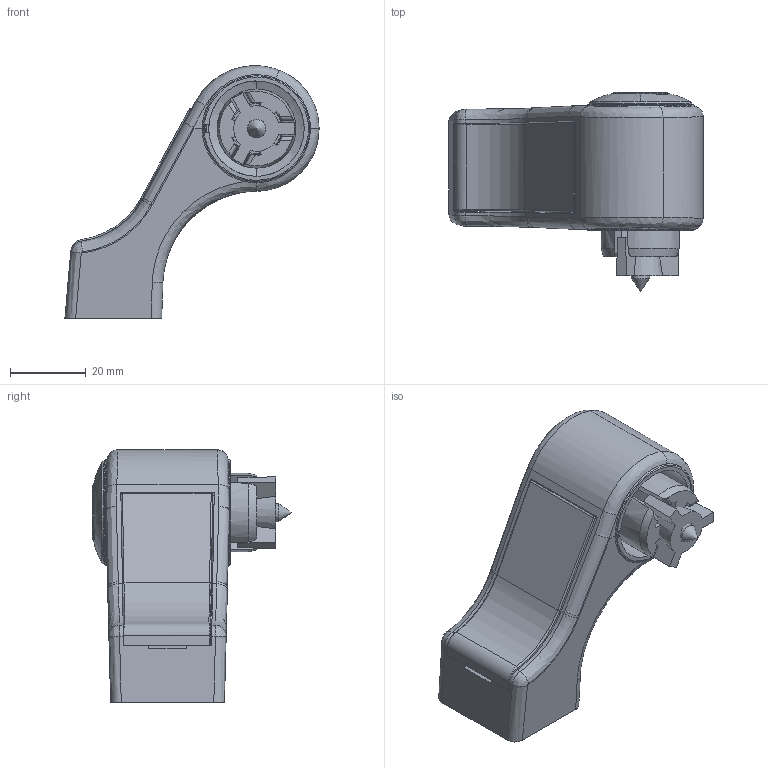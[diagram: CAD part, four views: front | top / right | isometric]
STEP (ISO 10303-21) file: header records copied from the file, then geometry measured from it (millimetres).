
FILE_DESCRIPTION (( 'STEP AP214' ), '1' );
FILE_NAME ('F31111_2.step', '2024-12-03T16:17:13', ( '' ), ( '' ), 'SwSTEP 2.0', 'SolidWorks 2023', '' );
FILE_SCHEMA (( 'AUTOMOTIVE_DESIGN' ));
Length unit declared in the file: millimetre
Products named in the file (1): F31111_2
Bounding box: 67 x 52.5 x 66.57 mm (x, y, z)
Surface area: 18475.5 mm2 (no closed solid volume)
Topology: 0 solids, 9 shells, 306 faces, 1093 edges, 766 vertices
Faces by surface type: bspline 115, plane 98, cylinder 81, cone 12
Full cylindrical faces by diameter (mm): 4.8 x1, 7 x1, 8.5 x1, 10 x1, 11 x1, 27 x1
Entity records: 25820 total; most frequent: CARTESIAN_POINT 18371, ORIENTED_EDGE 1731, EDGE_CURVE 1068, DIRECTION 1040, VERTEX_POINT 759, B_SPLINE_CURVE_WITH_KNOTS 419, LINE 400, VECTOR 400
